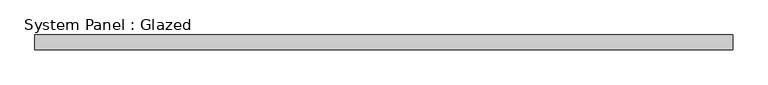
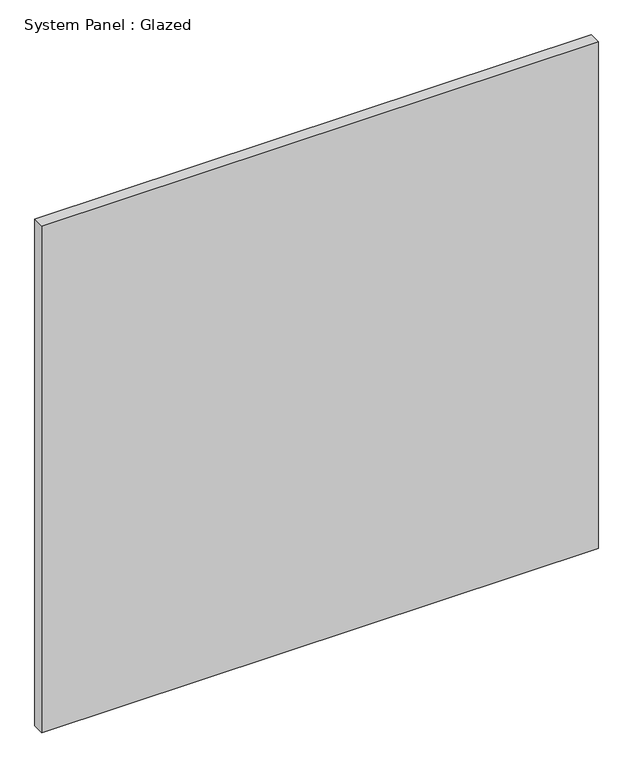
"""IFC4 building model written with IfcOpenShell, lengths in millimetres: plate geometry, System Panel : Glazed."""

from ifc_helpers import new_model, si_unit, origin, origin_with_axes, place, context, project, spatial, polyline, outline, extrude, source, transform, mapped, element, save


def system_panel_glazed_befa3c64(model_context):
    return source(origin(), model_context, "Body", "SweptSolid", [
        extrude(outline(polyline([(597.3125, 24.5), (-597.3125, 24.5), (-597.3125, 49.5), (597.3125, 49.5), (597.3125, 24.5)])), origin_with_axes(), (0.0, 0.0, 1.0), 1150.0),
    ])


if __name__ == "__main__":
    model = new_model("IFC4")
    model_context = context("Model", 3, world=origin())
    ifc_project = project(units=[si_unit("LENGTHUNIT", "METRE", prefix="MILLI")], contexts=[model_context])
    site = spatial("IfcSite", under=ifc_project)
    building = spatial("IfcBuilding", under=site)
    placement = place(None, origin())
    system_panel_glazed_shape = system_panel_glazed_befa3c64(model_context)
    element("IfcPlate", 1, ObjectType="System Panel : Glazed", at=placement, inside=building, context=model_context, shape_type="MappedRepresentation", body=[
        mapped(system_panel_glazed_shape, transform((0.0, 0.0, 0.0), x_axis=(1.0, 0.0, 0.0), y_axis=(0.0, 1.0, 0.0), z_axis=(0.0, 0.0, 1.0))),
    ])
    save(model, "model.ifc")
